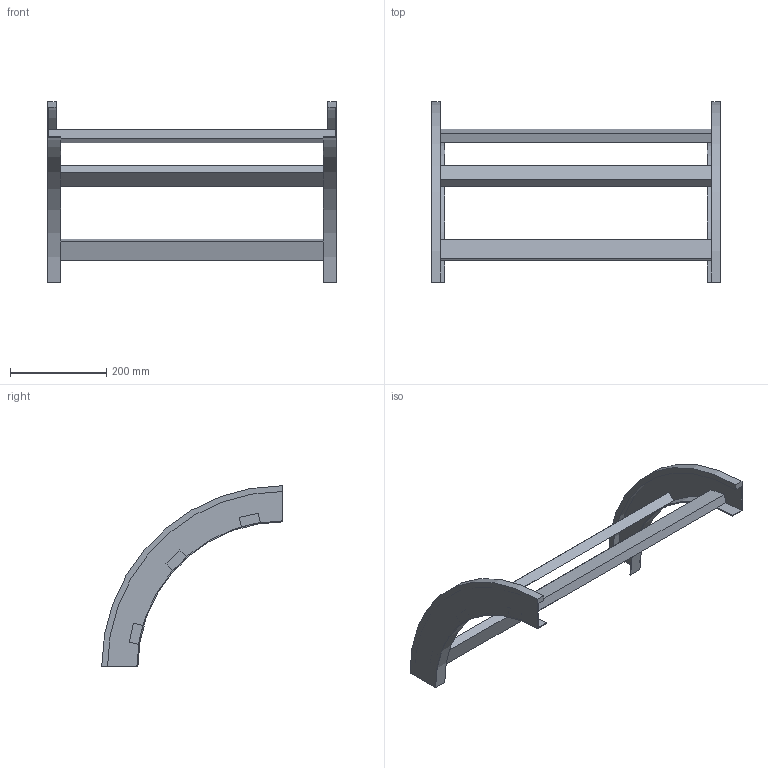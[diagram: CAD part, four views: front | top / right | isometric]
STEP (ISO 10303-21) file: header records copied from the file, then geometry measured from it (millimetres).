
FILE_DESCRIPTION (( 'STEP AP214' ), '1' );
FILE_NAME ('B2_33B3C600.step', '2025-02-21T15:06:12', ( '' ), ( '' ), 'SwSTEP 2.0', 'SolidWorks 2023', '' );
FILE_SCHEMA (( 'AUTOMOTIVE_DESIGN' ));
Length unit declared in the file: millimetre
Products named in the file (3): B2_33B3C600; TRAVERSINO_600; B2_LONGH.DISCESA_90°_H75_R300
Assembly tree (5 placements, depth 2):
  B2_33B3C600
    B2_LONGH.DISCESA_90°_H75_R300  x2
    TRAVERSINO_600  x3
Bounding box: 600 x 375 x 375 mm (x, y, z)
Volume: 1877179.7 mm3; surface area: 470437.2 mm2
Topology: 5 solids, 5 shells, 38 faces, 84 edges, 56 vertices
Faces by surface type: plane 30, cylinder 8
Entity records: 560 total; most frequent: DIRECTION 92, CARTESIAN_POINT 84, ORIENTED_EDGE 72, EDGE_CURVE 36, AXIS2_PLACEMENT_3D 32, LINE 28, VECTOR 28, VERTEX_POINT 24
